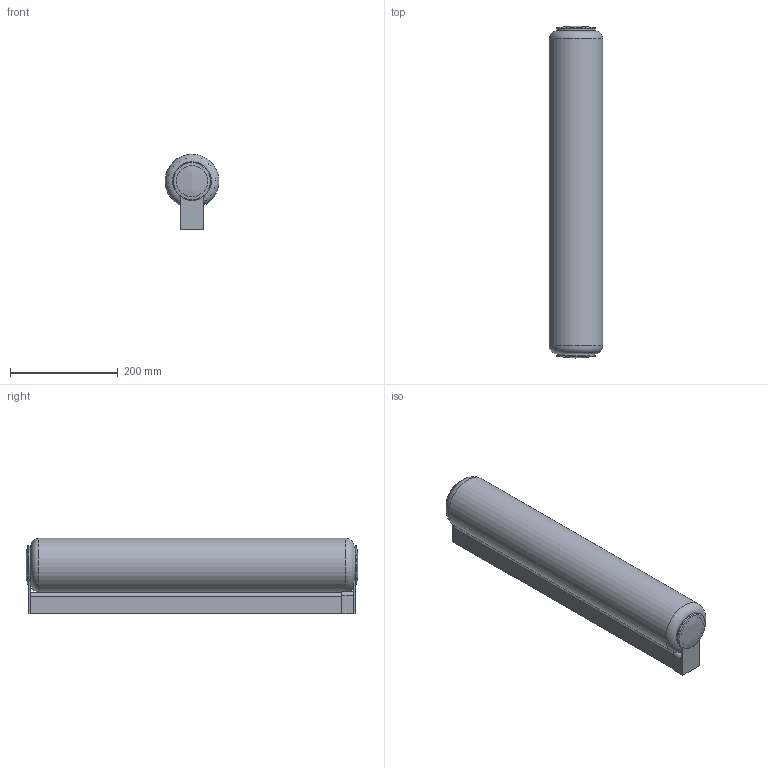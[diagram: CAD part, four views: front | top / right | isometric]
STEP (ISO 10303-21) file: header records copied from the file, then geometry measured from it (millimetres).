
FILE_DESCRIPTION(/* description */ ('STACKING P/PL 60 CE'),/* implementation_level */ '2;1');
FILE_NAME(/* name */ '343Z1LD0-0CEPD - STACKING P-PL 60 EMEA- VU RIG.stp',/* time_stamp */ '2026-01-29T11:28:22+01:00',/* author */ ('marco.prandina'),/* organization */ (''),/* preprocessor_version */ 'ST-DEVELOPER v20.1',/* originating_system */ 'Autodesk Inventor 2026',/* authorisation */ '');
FILE_SCHEMA (('AUTOMOTIVE_DESIGN { 1 0 10303 214 3 1 1 }'));
Length unit declared in the file: millimetre
Products named in the file (32): 343Z1LD0-0CEPD; 343C667; 343C439; 343C638; GRANO M6X10 ISO 4026; 343C668; 343C635-B; 343C671; DADO M4 A3 - DIN 934; RONDELLA DENTELLATA ESTERNA M4; 343C672; 343C657; 343C659-A; W027-BIA; X0023-020; 343C670; B006; 00343C397; 00343C404; 00343C398; 00343C407-B; VITE TCB M4X8 UNI7687 ZB; VITE TCB M3X8 UNI7687 ZB; VITE TSP M4X6 ZN; 00343C410; DADO M3 S2 M.00.06.19 UNI5588 DIN934; RONDELLA DENTELLATA ESTERNA M3 UNI8842A; K002; W042-TRS; Z016-A; Z016-B; 00343V005-B-600
Assembly tree (37 placements, depth 2):
  343Z1LD0-0CEPD
    343C667
    343C439
    343C638
    GRANO M6X10 ISO 4026
    343C668
    343C635-B
    343C671
    DADO M4 A3 - DIN 934  x2
    RONDELLA DENTELLATA ESTERNA M4  x2
    343C672
    343C657
    343C659-A
    X0023-020  x2
    W027-BIA  x2
    343C670
    B006
    00343C397
    00343C404
    00343C398
    00343C407-B
    VITE TCB M4X8 UNI7687 ZB
    VITE TCB M3X8 UNI7687 ZB  x3
    VITE TSP M4X6 ZN
    00343C410
    DADO M3 S2 M.00.06.19 UNI5588 DIN934
    RONDELLA DENTELLATA ESTERNA M3 UNI8842A
    K002
    W042-TRS
    Z016-A
    Z016-B
    00343V005-B-600
Bounding box: 99.76 x 616.42 x 139.88 mm (x, y, z)
Volume: 1481593.8 mm3; surface area: 954238.2 mm2
Topology: 38 solids, 38 shells, 1555 faces, 4076 edges, 2654 vertices
Faces by surface type: plane 737, cylinder 579, cone 170, bspline 38, torus 24, sphere 7
Full cylindrical faces by diameter (mm): 0.88 x2, 1.02 x2, 2.459 x8, 2.75 x3, 2.9 x2, 3 x6, 3.2 x4, 3.242 x2, 3.4 x3, 3.459 x2, 3.5 x2, 3.571 x1, 3.65 x1, 4 x4, 4.2 x1, 4.3 x2, 4.5 x10, 4.917 x1, 5 x3, 5.2 x1, 6 x1, 6.5 x2, 8.4 x1, 9 x2, 10.5 x1, 12 x1, 12.5 x2, 12.917 x1, 13 x1, 14 x1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
Entity records: 45851 total; most frequent: CARTESIAN_POINT 9739, DIRECTION 7199, ORIENTED_EDGE 7160, EDGE_CURVE 3580, AXIS2_PLACEMENT_3D 2612, VERTEX_POINT 2331, LINE 1975, VECTOR 1975
